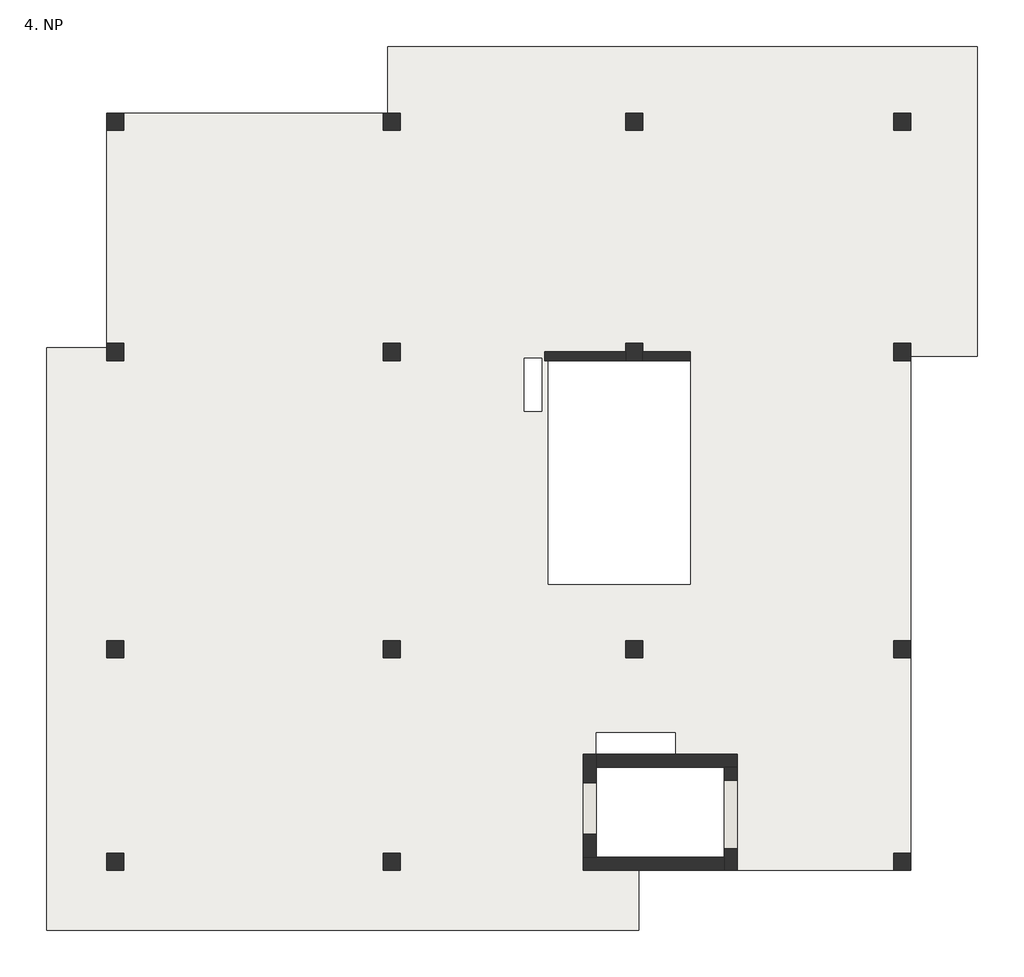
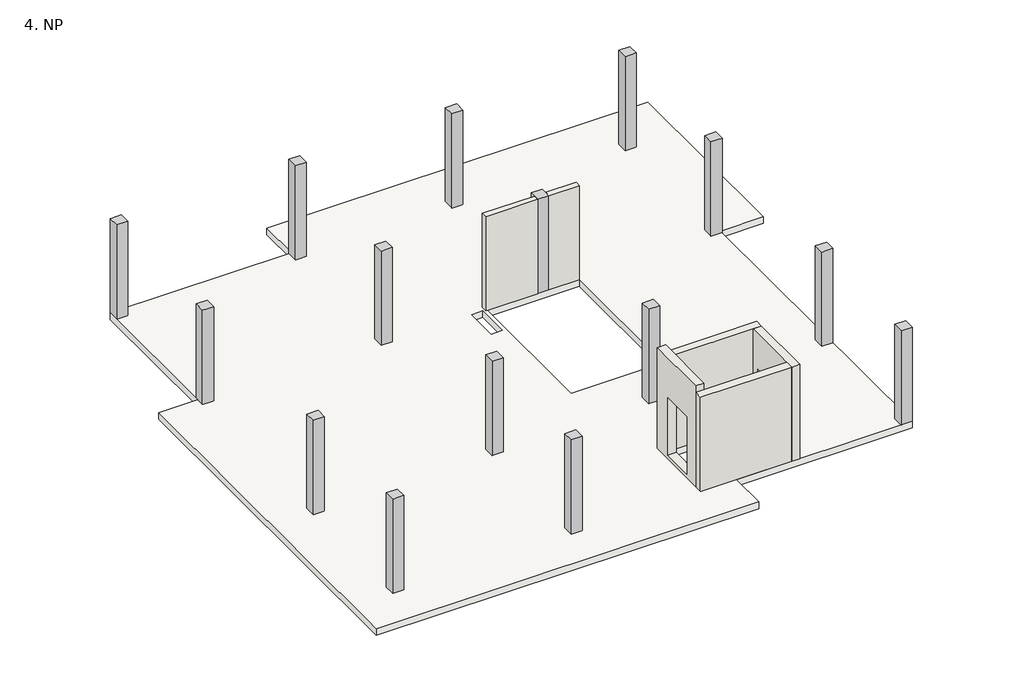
# One storey: 15 columns, 6 walls, 1 slab.
"""IFC4 building model written with IfcOpenShell, lengths in millimetres."""

from ifc_helpers import new_model, si_unit, frame, origin, place, context, project, spatial, polyline, outline, extrude, faceted_brep, element, save

model = new_model("IFC4")

# Units and contexts
model_context = context("Model", 3, world=origin())
ifc_project = project(units=[si_unit("LENGTHUNIT", "METRE", prefix="MILLI")], contexts=[model_context])

# Site, building, storey
site = spatial("IfcSite", under=ifc_project)
building = spatial("IfcBuilding", under=site)
storey = spatial("IfcBuildingStorey", under=building, Name="4. NP", Elevation=12850.0)

# Columns
placement = place(None, origin())
element("IfcColumn", 1, ObjectType="K_Sloup obdélník : 400 x 400 mm", at=placement, inside=storey, context=model_context, shape_type="SweptSolid", body=[
    extrude(outline(polyline([(-9527.9308562, -5396.7473289), (-9527.9308562, -5796.7473289), (-9927.9308562, -5796.7473289), (-9927.9308562, -5396.7473289), (-9527.9308562, -5396.7473289)])), frame((0.0, 0.0, 12700.0), z_axis=(0.0, 0.0, 1.0), x_axis=(1.0, 0.0, 0.0)), (0.0, 0.0, 1.0), 3600.0),
])
element("IfcColumn", 2, ObjectType="K_Sloup obdélník : 400 x 400 mm", at=placement, inside=storey, context=model_context, shape_type="SweptSolid", body=[
    extrude(outline(polyline([(-3077.9308562, -5396.7473289), (-3077.9308562, -5796.7473289), (-3477.9308562, -5796.7473289), (-3477.9308562, -5396.7473289), (-3077.9308562, -5396.7473289)])), frame((0.0, 0.0, 12700.0), z_axis=(0.0, 0.0, 1.0), x_axis=(1.0, 0.0, 0.0)), (0.0, 0.0, 1.0), 3600.0),
])
element("IfcColumn", 3, ObjectType="K_Sloup obdélník : 400 x 400 mm", at=placement, inside=storey, context=model_context, shape_type="SweptSolid", body=[
    extrude(outline(polyline([(8822.0691438, -5396.7473289), (8822.0691438, -5796.7473289), (8422.0691438, -5796.7473289), (8422.0691438, -5396.7473289), (8822.0691438, -5396.7473289)])), frame((0.0, 0.0, 12700.0), z_axis=(0.0, 0.0, 1.0), x_axis=(1.0, 0.0, 0.0)), (0.0, 0.0, 1.0), 3600.0),
])
element("IfcColumn", 4, ObjectType="K_Sloup obdélník : 400 x 400 mm", at=placement, inside=storey, context=model_context, shape_type="SweptSolid", body=[
    extrude(outline(polyline([(-9527.9308562, -446.7473314), (-9527.9308562, -846.7473314), (-9927.9308562, -846.7473314), (-9927.9308562, -446.7473314), (-9527.9308562, -446.7473314)])), frame((0.0, 0.0, 12700.0), z_axis=(0.0, 0.0, 1.0), x_axis=(1.0, 0.0, 0.0)), (0.0, 0.0, 1.0), 3600.0),
])
element("IfcColumn", 5, ObjectType="K_Sloup obdélník : 400 x 400 mm", at=placement, inside=storey, context=model_context, shape_type="SweptSolid", body=[
    extrude(outline(polyline([(-3077.9308562, -446.7473314), (-3077.9308562, -846.7473314), (-3477.9308562, -846.7473314), (-3477.9308562, -446.7473314), (-3077.9308562, -446.7473314)])), frame((0.0, 0.0, 12700.0), z_axis=(0.0, 0.0, 1.0), x_axis=(1.0, 0.0, 0.0)), (0.0, 0.0, 1.0), 3600.0),
])
element("IfcColumn", 6, ObjectType="K_Sloup obdélník : 400 x 400 mm", at=placement, inside=storey, context=model_context, shape_type="SweptSolid", body=[
    extrude(outline(polyline([(8822.0691438, -446.7473314), (8822.0691438, -846.7473314), (8422.0691438, -846.7473314), (8422.0691438, -446.7473314), (8822.0691438, -446.7473314)])), frame((0.0, 0.0, 12700.0), z_axis=(0.0, 0.0, 1.0), x_axis=(1.0, 0.0, 0.0)), (0.0, 0.0, 1.0), 3600.0),
])
element("IfcColumn", 7, ObjectType="K_Sloup obdélník : 400 x 400 mm", at=placement, inside=storey, context=model_context, shape_type="SweptSolid", body=[
    extrude(outline(polyline([(-9527.9308562, 6483.2526657), (-9527.9308562, 6083.2526657), (-9927.9308562, 6083.2526657), (-9927.9308562, 6483.2526657), (-9527.9308562, 6483.2526657)])), frame((0.0, 0.0, 12700.0), z_axis=(0.0, 0.0, 1.0), x_axis=(1.0, 0.0, 0.0)), (0.0, 0.0, 1.0), 3600.0),
])
element("IfcColumn", 8, ObjectType="K_Sloup obdélník : 400 x 400 mm", at=placement, inside=storey, context=model_context, shape_type="SweptSolid", body=[
    extrude(outline(polyline([(-3077.9308562, 6483.2526657), (-3077.9308562, 6083.2526657), (-3477.9308562, 6083.2526657), (-3477.9308562, 6483.2526657), (-3077.9308562, 6483.2526657)])), frame((0.0, 0.0, 12700.0), z_axis=(0.0, 0.0, 1.0), x_axis=(1.0, 0.0, 0.0)), (0.0, 0.0, 1.0), 3600.0),
])
element("IfcColumn", 9, ObjectType="K_Sloup obdélník : 400 x 400 mm", at=placement, inside=storey, context=model_context, shape_type="SweptSolid", body=[
    extrude(outline(polyline([(2572.0691438, 6483.2526657), (2572.0691438, 6083.2526657), (2172.0691438, 6083.2526657), (2172.0691438, 6483.2526657), (2572.0691438, 6483.2526657)])), frame((0.0, 0.0, 12700.0), z_axis=(0.0, 0.0, 1.0), x_axis=(1.0, 0.0, 0.0)), (0.0, 0.0, 1.0), 3600.0),
])
element("IfcColumn", 10, ObjectType="K_Sloup obdélník : 400 x 400 mm", at=placement, inside=storey, context=model_context, shape_type="SweptSolid", body=[
    extrude(outline(polyline([(8822.0691438, 6483.2526657), (8822.0691438, 6083.2526657), (8422.0691438, 6083.2526657), (8422.0691438, 6483.2526657), (8822.0691438, 6483.2526657)])), frame((0.0, 0.0, 12700.0), z_axis=(0.0, 0.0, 1.0), x_axis=(1.0, 0.0, 0.0)), (0.0, 0.0, 1.0), 3600.0),
])
element("IfcColumn", 11, ObjectType="K_Sloup obdélník : 400 x 400 mm", at=placement, inside=storey, context=model_context, shape_type="SweptSolid", body=[
    extrude(outline(polyline([(-9527.9308562, 11853.2526657), (-9527.9308562, 11453.2526657), (-9927.9308562, 11453.2526657), (-9927.9308562, 11853.2526657), (-9527.9308562, 11853.2526657)])), frame((0.0, 0.0, 12700.0), z_axis=(0.0, 0.0, 1.0), x_axis=(1.0, 0.0, 0.0)), (0.0, 0.0, 1.0), 3600.0),
])
element("IfcColumn", 12, ObjectType="K_Sloup obdélník : 400 x 400 mm", at=placement, inside=storey, context=model_context, shape_type="SweptSolid", body=[
    extrude(outline(polyline([(-3077.9308562, 11853.2526657), (-3077.9308562, 11453.2526657), (-3477.9308562, 11453.2526657), (-3477.9308562, 11853.2526657), (-3077.9308562, 11853.2526657)])), frame((0.0, 0.0, 12700.0), z_axis=(0.0, 0.0, 1.0), x_axis=(1.0, 0.0, 0.0)), (0.0, 0.0, 1.0), 3600.0),
])
element("IfcColumn", 13, ObjectType="K_Sloup obdélník : 400 x 400 mm", at=placement, inside=storey, context=model_context, shape_type="SweptSolid", body=[
    extrude(outline(polyline([(2572.0691438, 11853.2526657), (2572.0691438, 11453.2526657), (2172.0691438, 11453.2526657), (2172.0691438, 11853.2526657), (2572.0691438, 11853.2526657)])), frame((0.0, 0.0, 12700.0), z_axis=(0.0, 0.0, 1.0), x_axis=(1.0, 0.0, 0.0)), (0.0, 0.0, 1.0), 3600.0),
])
element("IfcColumn", 14, ObjectType="K_Sloup obdélník : 400 x 400 mm", at=placement, inside=storey, context=model_context, shape_type="SweptSolid", body=[
    extrude(outline(polyline([(8822.0691438, 11853.2526657), (8822.0691438, 11453.2526657), (8422.0691438, 11453.2526657), (8422.0691438, 11853.2526657), (8822.0691438, 11853.2526657)])), frame((0.0, 0.0, 12700.0), z_axis=(0.0, 0.0, 1.0), x_axis=(1.0, 0.0, 0.0)), (0.0, 0.0, 1.0), 3600.0),
])
element("IfcColumn", 15, ObjectType="K_Sloup obdélník : 400 x 400 mm", at=placement, inside=storey, context=model_context, shape_type="SweptSolid", body=[
    extrude(outline(polyline([(2572.0691438, -446.7473314), (2572.0691438, -846.7473314), (2172.0691438, -846.7473314), (2172.0691438, -446.7473314), (2572.0691438, -446.7473314)])), frame((0.0, 0.0, 12700.0), z_axis=(0.0, 0.0, 1.0), x_axis=(1.0, 0.0, 0.0)), (0.0, 0.0, 1.0), 3600.0),
])

# Slab
element("IfcSlab", 16, ObjectType="Železobetnová stropní deska tl. 250 mm", at=placement, inside=storey, context=model_context, shape_type="SweptSolid", body=[
    extrude(outline(polyline([(-9927.9308562, 11853.2526657), (-3377.9308562, 11853.2526657), (-3377.9308562, 13403.2526657), (10372.0691438, 13403.2526657), (10372.0691438, 6183.2526657), (8822.0691438, 6183.2526657), (8822.0691438, -5796.7473289), (2472.0691438, -5796.7473289), (2472.0691438, -7196.7473343), (-11327.9308562, -7196.7473343), (-11327.9308562, 6383.2526657), (-9927.9308562, 6383.2526657), (-9927.9308562, 11853.2526657)]), holes=[polyline([(4472.0691438, -3396.7473289), (1482.0691438, -3396.7473289), (1482.0691438, -5496.7473289), (4472.0691438, -5496.7473289), (4472.0691438, -3396.7473289)]), polyline([(3672.0691438, 6083.2526711), (362.0691438, 6083.2526711), (362.0691438, 863.2526711), (3672.0691438, 863.2526711), (3672.0691438, 6083.2526711)]), polyline([(3332.0691438, -2596.7473289), (1482.0691438, -2596.7473289), (1482.0691438, -3096.7473289), (3332.0691438, -3096.7473289), (3332.0691438, -2596.7473289)]), polyline([(212.0691438, 6133.2526711), (-187.9308562, 6133.2526711), (-187.9308562, 4903.2526657), (212.0691438, 4903.2526657), (212.0691438, 6133.2526711)])]), frame((0.0, 0.0, 12450.0), z_axis=(0.0, 0.0, 1.0), x_axis=(1.0, 0.0, 0.0)), (0.0, 0.0, 1.0), 250.0),
])

# Walls
element("IfcWall", 17, ObjectType="Železobetonové zdivo tl. 300 mm", at=placement, inside=storey, context=model_context, shape_type="Brep", body=[
    faceted_brep([(1482.0691438, -5496.7473289, 12700.0), (1482.0691438, -3396.7473289, 12700.0), (1482.0691438, -3096.7473289, 12700.0), (1482.0691438, -3096.7473289, 16300.0), (1482.0691438, -3096.7473289, 16550.0), (1482.0691438, -5496.7473289, 16550.0), (1482.0691438, -4956.7473289, 12850.0), (1482.0691438, -4956.7473289, 15050.0), (1482.0691438, -3756.7473289, 15050.0), (1482.0691438, -3756.7473289, 12850.0), (1182.0691438, -3096.7473289, 12700.0), (1182.0691438, -5496.7473289, 12700.0), (1182.0691438, -5496.7473289, 16300.0), (1182.0691438, -5496.7473289, 16550.0), (1182.0691438, -3096.7473289, 16550.0), (1182.0691438, -4956.7473289, 15050.0), (1182.0691438, -4956.7473289, 12850.0), (1182.0691438, -3756.7473289, 12850.0), (1182.0691438, -3756.7473289, 15050.0)], [[[0, 1, 2, 3, 4, 5], [6, 7, 8, 9]], [[10, 11, 12, 13, 14], [15, 16, 17, 18]], [[11, 10, 2, 1, 0]], [[7, 6, 16, 15]], [[8, 7, 15, 18]], [[9, 8, 18, 17]], [[6, 9, 17, 16]], [[11, 0, 5, 13, 12]], [[2, 10, 14, 4, 3]], [[4, 14, 13, 5]]]),
])
element("IfcWall", 18, ObjectType="Železobetonové zdivo tl. 300 mm", at=placement, inside=storey, context=model_context, shape_type="Brep", body=[
    faceted_brep([(1482.0691438, -3396.7473289, 12700.0), (4472.0691438, -3396.7473289, 12700.0), (4772.0691438, -3396.7473289, 12700.0), (4772.0691438, -3396.7473289, 16300.0), (4472.0691438, -3396.7473289, 16300.0), (4471.9001879, -3396.7473289, 16300.0), (1482.0691438, -3396.7473289, 16300.0), (1482.0691438, -3096.7473289, 12700.0), (1482.0691438, -3096.7473289, 16300.0), (3332.0691438, -3096.7473289, 16300.0), (4772.0691438, -3096.7473289, 16300.0), (4772.0691438, -3096.7473289, 12700.0), (3332.0691438, -3096.7473289, 12700.0)], [[[0, 1, 2, 3, 4, 5, 6]], [[7, 8, 9, 10, 11, 12]], [[2, 1, 0, 7, 12, 11]], [[6, 5, 4, 3, 10, 9, 8]], [[3, 2, 11, 10]], [[0, 6, 8, 7]]]),
])
element("IfcWall", 19, ObjectType="Železobetonové zdivo tl. 300 mm", at=placement, inside=storey, context=model_context, shape_type="Brep", body=[
    faceted_brep([(4472.0691438, -5796.7473289, 16300.0), (4472.0691438, -5496.7473289, 16300.0), (4472.0691438, -3396.7473289, 16300.0), (4472.0691438, -3396.7473289, 12700.0), (4472.0691438, -5496.7473289, 12700.0), (4472.0691438, -5796.7473289, 12700.0), (4472.0691438, -3696.7473289, 14950.0), (4472.0691438, -5296.7473289, 14950.0), (4472.0691438, -5296.7473289, 12850.0), (4472.0691438, -3696.7473289, 12850.0), (4772.0691438, -5796.7473289, 12700.0), (4772.0691438, -3396.7473289, 12700.0), (4772.0691438, -3396.7473289, 16300.0), (4772.0691438, -5796.7473289, 16300.0), (4772.0691438, -5296.7473289, 14950.0), (4772.0691438, -3696.7473289, 14950.0), (4772.0691438, -3696.7473289, 12850.0), (4772.0691438, -5296.7473289, 12850.0)], [[[0, 1, 2, 3, 4, 5], [6, 7, 8, 9]], [[10, 11, 12, 13], [14, 15, 16, 17]], [[2, 1, 0, 13, 12]], [[11, 10, 5, 4, 3]], [[0, 5, 10, 13]], [[3, 2, 12, 11]], [[6, 15, 14, 7]], [[7, 14, 17, 8]], [[8, 17, 16, 9]], [[15, 6, 9, 16]]]),
])
element("IfcWall", 20, ObjectType="Železobetonové zdivo tl. 200 mm", at=placement, inside=storey, context=model_context, shape_type="SweptSolid", body=[
    extrude(outline(polyline([(3672.0691438, 6083.2526711), (2572.0691438, 6083.2526711), (2572.0691438, 6283.2526711), (3672.0691438, 6283.2526711), (3672.0691438, 6083.2526711)])), frame((0.0, 0.0, 12700.0), z_axis=(0.0, 0.0, 1.0), x_axis=(1.0, 0.0, 0.0)), (0.0, 0.0, 1.0), 3600.0),
])
element("IfcWall", 21, ObjectType="Železobetonové zdivo tl. 300 mm", at=placement, inside=storey, context=model_context, shape_type="Brep", body=[
    faceted_brep([(4472.0691438, -5496.7473289, 12700.0), (1482.0691438, -5496.7473289, 12700.0), (1182.0691438, -5496.7473289, 12700.0), (1182.0691438, -5496.7473289, 16300.0), (1481.9001879, -5496.7473289, 16300.0), (4471.9001879, -5496.7473289, 16300.0), (4472.0691438, -5496.7473289, 16300.0), (4472.0691438, -5796.7473289, 12700.0), (4472.0691438, -5796.7473289, 16300.0), (1182.0691438, -5796.7473289, 16300.0), (1182.0691438, -5796.7473289, 12700.0), (2472.0691438, -5796.7473289, 12700.0)], [[[0, 1, 2, 3, 4, 5, 6]], [[7, 8, 9, 10, 11]], [[6, 5, 4, 3, 9, 8]], [[0, 6, 8, 7]], [[2, 1, 0, 7, 11, 10]], [[3, 2, 10, 9]]]),
])
element("IfcWall", 22, ObjectType="Železobetonové zdivo tl. 200 mm", at=placement, inside=storey, context=model_context, shape_type="Brep", body=[
    faceted_brep([(287.0691438, 6083.2526711, 12700.0), (362.0691438, 6083.2526711, 12700.0), (2172.0691438, 6083.2526711, 12700.0), (2172.0691438, 6083.2526711, 16300.0), (287.0691438, 6083.2526711, 16300.0), (287.0691438, 6283.2526711, 12700.0), (287.0691438, 6283.2526711, 16300.0), (2172.0691438, 6283.2526711, 16300.0), (2172.0691438, 6283.2526711, 12700.0)], [[[0, 1, 2, 3, 4]], [[5, 6, 7, 8]], [[3, 2, 8, 7]], [[0, 4, 6, 5]], [[4, 3, 7, 6]], [[2, 1, 0, 5, 8]]]),
])

save(model, "model.ifc")
